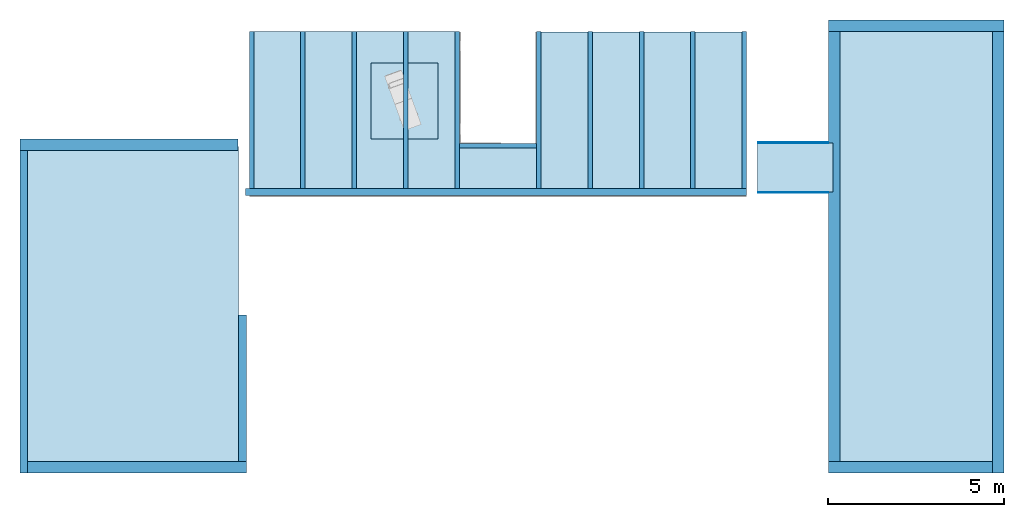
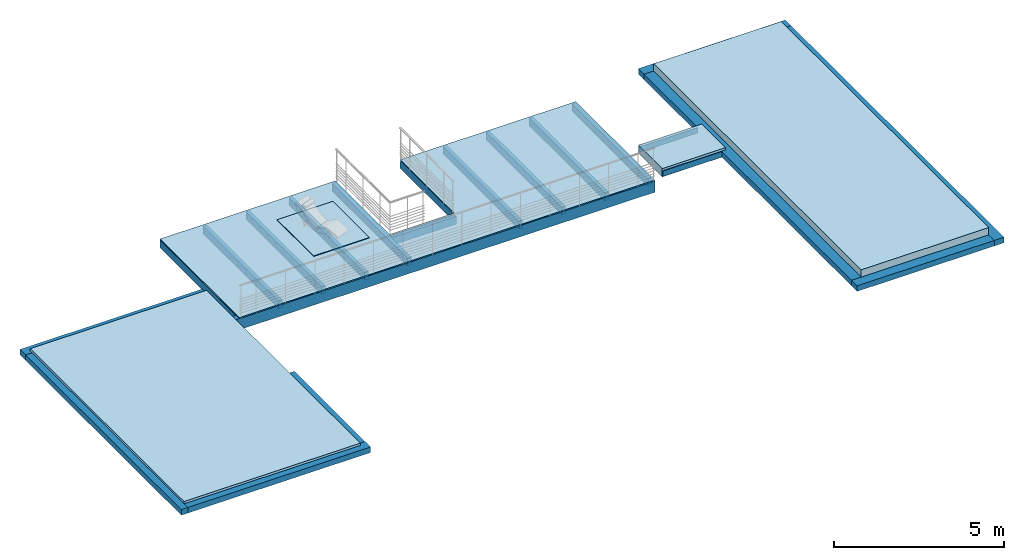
# One storey, part 1 of 2: 12 beams, 10 walls, 5 slabs.
"""IFC2X3 building model written with IfcOpenShell, lengths in metres."""

from ifc_helpers import new_model, entity, si_unit, converted_unit, derived_unit, direction, frame, frame_2d, origin, place, context, subcontext, project, spatial, polyline, rectangle, outline, extrude, material, layer, layer_set, layer_usage, type_object, element, save


model = new_model("IFC2X3")

# Units and contexts
model_context = context("Model", 3, precision=1e-05, world=origin(), true_north=direction((6.12303176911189e-17, 1.0)))
body_context = subcontext(model_context, "Body", "Model", "MODEL_VIEW")
ifc_project = project(units=[si_unit("LENGTHUNIT", "METRE"), si_unit("AREAUNIT", "SQUARE_METRE"), si_unit("VOLUMEUNIT", "CUBIC_METRE"), converted_unit("PLANEANGLEUNIT", "DEGREE", entity("IfcRatioMeasure", 0.0174532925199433), si_unit("PLANEANGLEUNIT", "RADIAN"), dimensions=[0, 0, 0, 0, 0, 0, 0]), si_unit("MASSUNIT", "GRAM", prefix="KILO"), derived_unit("MASSDENSITYUNIT", [(si_unit("MASSUNIT", "GRAM", prefix="KILO"), 1), (si_unit("LENGTHUNIT", "METRE"), -3)]), si_unit("TIMEUNIT", "SECOND"), si_unit("FREQUENCYUNIT", "HERTZ"), si_unit("THERMODYNAMICTEMPERATUREUNIT", "DEGREE_CELSIUS"), derived_unit("THERMALTRANSMITTANCEUNIT", [(si_unit("MASSUNIT", "GRAM", prefix="KILO"), 1), (si_unit("THERMODYNAMICTEMPERATUREUNIT", "KELVIN"), -1), (si_unit("TIMEUNIT", "SECOND"), -3)]), derived_unit("VOLUMETRICFLOWRATEUNIT", [(si_unit("LENGTHUNIT", "METRE"), 3), (si_unit("TIMEUNIT", "SECOND"), -1)]), si_unit("ELECTRICCURRENTUNIT", "AMPERE"), si_unit("ELECTRICVOLTAGEUNIT", "VOLT"), si_unit("POWERUNIT", "WATT"), si_unit("FORCEUNIT", "NEWTON", prefix="KILO"), si_unit("ILLUMINANCEUNIT", "LUX"), si_unit("LUMINOUSFLUXUNIT", "LUMEN"), si_unit("LUMINOUSINTENSITYUNIT", "CANDELA"), derived_unit("USERDEFINED", [(si_unit("MASSUNIT", "GRAM", prefix="KILO"), -1), (si_unit("LENGTHUNIT", "METRE"), -2), (si_unit("TIMEUNIT", "SECOND"), 3), (si_unit("LUMINOUSFLUXUNIT", "LUMEN"), 1)]), derived_unit("LINEARVELOCITYUNIT", [(si_unit("LENGTHUNIT", "METRE"), 1), (si_unit("TIMEUNIT", "SECOND"), -1)]), si_unit("PRESSUREUNIT", "PASCAL"), derived_unit("USERDEFINED", [(si_unit("LENGTHUNIT", "METRE"), -2), (si_unit("MASSUNIT", "GRAM", prefix="KILO"), 1), (si_unit("TIMEUNIT", "SECOND"), -2)])], contexts=[model_context])

# Site, building, storey
site_placement = place(None, origin())
site = spatial("IfcSite", under=ifc_project, at=site_placement, Name="Surface", CompositionType="ELEMENT")
building_placement = place(site_placement, origin())
building = spatial("IfcBuilding", under=site, at=building_placement, CompositionType="ELEMENT")
storey_placement = place(building_placement, frame((0.0, 0.0, 3.0)))
storey = spatial("IfcBuildingStorey", under=building, at=storey_placement, Name="1er ETAGE", CompositionType="ELEMENT", Elevation=2.99999999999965)

# Beams
ifc_material_1 = material(Name="Bois - Bois de construction de dimensions courantes")
beam_type_1 = type_object("IfcBeamType", Name="Poutre - Lamellé-collé - Pin du sud:127X279", PredefinedType="BEAM")
beam_1_placement = place(storey_placement, frame((-4.61435450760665, 7.54680149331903, 0.0), z_axis=(0.0, 0.0, 1.0), x_axis=(0.0, -1.0, 0.0)))
element("IfcBeam", 1, at=beam_1_placement, inside=storey, type_object=beam_type_1, material=ifc_material_1, Name="Poutre - Lamellé-collé - Pin du sud:127X279", ObjectType="Poutre - Lamellé-collé - Pin du sud:127X279", context=body_context, shape_type="SweptSolid", body=[
    extrude(rectangle(XDim=0.279, YDim=0.127000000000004, at=frame_2d((2.77555756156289e-16, 0.0), x_axis=(1.0, 0.0))), frame((0.000395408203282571, 0.0, -0.139500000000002), z_axis=(1.0, 0.0, 0.0), x_axis=(0.0, 0.0, -1.0)), (0.0, 0.0, 1.0), 4.469),
])
beam_2_placement = place(storey_placement, frame((1.23401111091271, 7.54680149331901, 0.0), z_axis=(0.0, 0.0, 1.0), x_axis=(0.0, -1.0, 0.0)))
element("IfcBeam", 2, at=beam_2_placement, inside=storey, type_object=beam_type_1, material=ifc_material_1, Name="Poutre - Lamellé-collé - Pin du sud:127X279", ObjectType="Poutre - Lamellé-collé - Pin du sud:127X279", context=body_context, shape_type="SweptSolid", body=[
    extrude(rectangle(XDim=0.279, YDim=0.127000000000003, at=frame_2d((2.77555756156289e-16, 1.31838984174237e-16), x_axis=(1.0, 0.0))), frame((0.000395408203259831, 0.0, -0.139500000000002), z_axis=(1.0, 0.0, 0.0), x_axis=(0.0, 0.0, -1.0)), (0.0, 0.0, 1.0), 4.469),
])
beam_3_placement = place(storey_placement, frame((-3.15226310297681, 7.54680149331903, 0.0), z_axis=(0.0, 0.0, 1.0), x_axis=(0.0, -1.0, 0.0)))
element("IfcBeam", 3, at=beam_3_placement, inside=storey, type_object=beam_type_1, material=ifc_material_1, Name="Poutre - Lamellé-collé - Pin du sud:127X279", ObjectType="Poutre - Lamellé-collé - Pin du sud:127X279", context=body_context, shape_type="SweptSolid", body=[
    extrude(rectangle(XDim=0.279, YDim=0.127000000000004, at=frame_2d((2.77555756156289e-16, 0.0), x_axis=(1.0, 0.0))), frame((0.000395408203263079, 0.0, -0.139500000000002), z_axis=(1.0, 0.0, 0.0), x_axis=(0.0, 0.0, -1.0)), (0.0, 0.0, 1.0), 4.469),
])
beam_4_placement = place(storey_placement, frame((-1.69017169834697, 7.54680149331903, 0.0), z_axis=(0.0, 0.0, 1.0), x_axis=(0.0, -1.0, 0.0)))
element("IfcBeam", 4, at=beam_4_placement, inside=storey, type_object=beam_type_1, material=ifc_material_1, Name="Poutre - Lamellé-collé - Pin du sud:127X279", ObjectType="Poutre - Lamellé-collé - Pin du sud:127X279", context=body_context, shape_type="SweptSolid", body=[
    extrude(rectangle(XDim=0.279, YDim=0.127000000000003, at=frame_2d((2.77555756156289e-16, 0.0), x_axis=(1.0, 0.0))), frame((0.000395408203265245, 0.0, -0.139500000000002), z_axis=(1.0, 0.0, 0.0), x_axis=(0.0, 0.0, -1.0)), (0.0, 0.0, 1.0), 4.469),
])
beam_5_placement = place(storey_placement, frame((-0.228080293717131, 7.54680149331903, 0.0), z_axis=(0.0, 0.0, 1.0), x_axis=(0.0, -1.0, 0.0)))
element("IfcBeam", 5, at=beam_5_placement, inside=storey, type_object=beam_type_1, material=ifc_material_1, Name="Poutre - Lamellé-collé - Pin du sud:127X279", ObjectType="Poutre - Lamellé-collé - Pin du sud:127X279", context=body_context, shape_type="SweptSolid", body=[
    extrude(rectangle(XDim=0.279, YDim=0.127000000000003, at=frame_2d((2.77555756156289e-16, 0.0), x_axis=(1.0, 0.0))), frame((0.000395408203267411, 0.0, -0.139500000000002), z_axis=(1.0, 0.0, 0.0), x_axis=(0.0, 0.0, -1.0)), (0.0, 0.0, 1.0), 4.469),
])
beam_6_placement = place(storey_placement, frame((9.40797688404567, 7.54680149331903, 0.0), z_axis=(0.0, 0.0, 1.0), x_axis=(0.0, -1.0, 0.0)))
element("IfcBeam", 6, at=beam_6_placement, inside=storey, type_object=beam_type_1, material=ifc_material_1, Name="Poutre - Lamellé-collé - Pin du sud:127X279", ObjectType="Poutre - Lamellé-collé - Pin du sud:127X279", context=body_context, shape_type="SweptSolid", body=[
    extrude(rectangle(XDim=0.279, YDim=0.127000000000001, at=frame_2d((2.77555756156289e-16, 0.0), x_axis=(1.0, 0.0))), frame((0.000395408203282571, 0.0, -0.139500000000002), z_axis=(1.0, 0.0, 0.0), x_axis=(0.0, 0.0, -1.0)), (0.0, 0.0, 1.0), 4.469),
])
beam_7_placement = place(storey_placement, frame((3.55961126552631, 7.54680149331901, 0.0), z_axis=(0.0, 0.0, 1.0), x_axis=(0.0, -1.0, 0.0)))
element("IfcBeam", 7, at=beam_7_placement, inside=storey, type_object=beam_type_1, material=ifc_material_1, Name="Poutre - Lamellé-collé - Pin du sud:127X279", ObjectType="Poutre - Lamellé-collé - Pin du sud:127X279", context=body_context, shape_type="SweptSolid", body=[
    extrude(rectangle(XDim=0.279, YDim=0.127000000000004, at=frame_2d((2.77555756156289e-16, 0.0), x_axis=(1.0, 0.0))), frame((0.000395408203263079, 0.0, -0.139500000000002), z_axis=(1.0, 0.0, 0.0), x_axis=(0.0, 0.0, -1.0)), (0.0, 0.0, 1.0), 4.469),
])
beam_8_placement = place(storey_placement, frame((7.94588547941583, 7.54680149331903, 0.0), z_axis=(0.0, 0.0, 1.0), x_axis=(0.0, -1.0, 0.0)))
element("IfcBeam", 8, at=beam_8_placement, inside=storey, type_object=beam_type_1, material=ifc_material_1, Name="Poutre - Lamellé-collé - Pin du sud:127X279", ObjectType="Poutre - Lamellé-collé - Pin du sud:127X279", context=body_context, shape_type="SweptSolid", body=[
    extrude(rectangle(XDim=0.279, YDim=0.127000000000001, at=frame_2d((2.77555756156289e-16, 0.0), x_axis=(1.0, 0.0))), frame((0.000395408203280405, 0.0, -0.139500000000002), z_axis=(1.0, 0.0, 0.0), x_axis=(0.0, 0.0, -1.0)), (0.0, 0.0, 1.0), 4.469),
])
beam_9_placement = place(storey_placement, frame((6.48379407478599, 7.54680149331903, 0.0), z_axis=(0.0, 0.0, 1.0), x_axis=(0.0, -1.0, 0.0)))
element("IfcBeam", 9, at=beam_9_placement, inside=storey, type_object=beam_type_1, material=ifc_material_1, Name="Poutre - Lamellé-collé - Pin du sud:127X279", ObjectType="Poutre - Lamellé-collé - Pin du sud:127X279", context=body_context, shape_type="SweptSolid", body=[
    extrude(rectangle(XDim=0.279, YDim=0.127000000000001, at=frame_2d((2.77555756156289e-16, -1.08246744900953e-15), x_axis=(1.0, 0.0))), frame((0.00039540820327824, 0.0, -0.139500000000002), z_axis=(1.0, 0.0, 0.0), x_axis=(0.0, 0.0, -1.0)), (0.0, 0.0, 1.0), 4.469),
])
beam_10_placement = place(storey_placement, frame((5.02170267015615, 7.54680149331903, 0.0), z_axis=(0.0, 0.0, 1.0), x_axis=(0.0, -1.0, 0.0)))
element("IfcBeam", 10, at=beam_10_placement, inside=storey, type_object=beam_type_1, material=ifc_material_1, Name="Poutre - Lamellé-collé - Pin du sud:127X279", ObjectType="Poutre - Lamellé-collé - Pin du sud:127X279", context=body_context, shape_type="SweptSolid", body=[
    extrude(rectangle(XDim=0.279, YDim=0.127000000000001, at=frame_2d((2.77555756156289e-16, -1.08246744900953e-15), x_axis=(1.0, 0.0))), frame((0.000395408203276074, 0.0, -0.139500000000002), z_axis=(1.0, 0.0, 0.0), x_axis=(0.0, 0.0, -1.0)), (0.0, 0.0, 1.0), 4.469),
])
beam_11_placement = place(storey_placement, frame((1.2340111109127, 4.29851067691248, 0.0)))
element("IfcBeam", 11, at=beam_11_placement, inside=storey, type_object=beam_type_1, material=ifc_material_1, Name="Poutre - Lamellé-collé - Pin du sud:127X279", ObjectType="Poutre - Lamellé-collé - Pin du sud:127X279", context=body_context, shape_type="SweptSolid", body=[
    extrude(rectangle(XDim=0.279, YDim=0.127000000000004, at=frame_2d((2.77555756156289e-16, 7.04297731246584e-15), x_axis=(1.0, 0.0))), frame((0.0638000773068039, 0.0, -0.139500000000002), z_axis=(1.0, 0.0, 0.0), x_axis=(0.0, 0.0, -1.0)), (0.0, 0.0, 1.0), 2.198),
])
ifc_material_2 = material(Name="Béton - Béton coulé sur place")
beam_type_2 = type_object("IfcBeamType", Name="Poutre rectangulaire - Béton:200 x 400 mm", PredefinedType="BEAM")
beam_12_placement = place(storey_placement, frame((-4.77202311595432, 2.97701067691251, 0.0)))
element("IfcBeam", 12, at=beam_12_placement, inside=storey, type_object=beam_type_2, material=ifc_material_2, Name="Poutre rectangulaire - Béton:200 x 400 mm", ObjectType="Poutre rectangulaire - Béton:200 x 400 mm", context=body_context, shape_type="SweptSolid", body=[
    extrude(rectangle(XDim=0.4, YDim=0.199999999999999, at=frame_2d((0.0, 4.60187443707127e-14), x_axis=(1.0, 0.0))), frame((-0.0124328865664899, 0.0, -0.200000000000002), z_axis=(1.0, 0.0, 0.0), x_axis=(0.0, 0.0, -1.0)), (0.0, 0.0, 1.0), 14.2519671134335),
])

# Slabs
ifc_material_3 = material(Name="Bois - Chêne")
ifc_layer_1 = layer(ifc_material_3, 0.04)
ifc_layer_set_1 = layer_set([ifc_layer_1], Name="Sol:Plancher bois")
ifc_layer_usage_1 = layer_usage(ifc_layer_set_1, "AXIS3", "POSITIVE", 0.0)
slab_1_placement = place(storey_placement, origin())
element("IfcSlab", 13, at=slab_1_placement, inside=storey, material=ifc_layer_usage_1, Name="Sol:Plancher bois", ObjectType="Sol:Plancher bois", PredefinedType="FLOOR", context=body_context, shape_type="SweptSolid", body=[
    extrude(outline(polyline([(-2.70529411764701, -7.0696500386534), (1.96470588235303, -7.0696500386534), (1.96470588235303, -1.0996500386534), (-1.214117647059, -1.0996500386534), (-1.21411764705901, 1.0989501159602), (1.954705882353, 1.09895011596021), (1.95470588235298, 7.0703499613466), (-2.70529411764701, 7.0703499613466), (-2.70529411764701, -7.0696500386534)])), frame((2.39716114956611, 5.58230479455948, 0.0399999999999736), z_axis=(0.0, 0.0, -1.0), x_axis=(0.0, 1.0, 0.0)), (0.0, 0.0, 1.0), 0.0400000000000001),
])
ifc_material_4 = material(Name="Protection lourde")
ifc_layer_2 = layer(ifc_material_4, 0.04)
ifc_material_5 = material(Name="Toiture, membrane EPDM")
ifc_layer_3 = layer(ifc_material_5, 0.002)
ifc_material_6 = material(Name="Maçonnerie - Isolant")
ifc_layer_4 = layer(ifc_material_6, 0.06)
ifc_material_7 = material(Name="Maçonnerie - Béton")
ifc_layer_5 = layer(ifc_material_7, 0.2)
ifc_layer_set_2 = layer_set([ifc_layer_2, ifc_layer_3, ifc_layer_4, ifc_layer_5], Name="Sol:TT garage ba 20+  isol 6 + EPDM + pl 4")
ifc_layer_usage_2 = layer_usage(ifc_layer_set_2, "AXIS3", "POSITIVE", 0.0)
slab_2_placement = place(storey_placement, origin())
element("IfcSlab", 14, at=slab_2_placement, inside=storey, material=ifc_layer_usage_2, Name="Sol:TT garage ba 20+  isol 6 + EPDM + pl 4", ObjectType="Sol:TT garage ba 20+  isol 6 + EPDM + pl 4", PredefinedType="FLOOR", context=body_context, shape_type="SweptSolid", body=[
    extrude(rectangle(XDim=9.07, YDim=5.99999999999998, at=frame_2d((0.0, -1.11022302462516e-15), x_axis=(1.0, 0.0))), frame((-7.9824888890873, -0.257989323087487, 0.282000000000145), z_axis=(0.0, 0.0, -1.0), x_axis=(0.0, 1.0, 0.0)), (0.0, 0.0, 1.0), 0.302),
])
ifc_material_8 = material(Name="Herbe")
ifc_layer_6 = layer(ifc_material_8, 0.01)
ifc_material_9 = material(Name="Terre")
ifc_layer_7 = layer(ifc_material_9, 0.14)
ifc_material_10 = material(Name="Géotextile")
ifc_layer_8 = layer(ifc_material_10, 0.001)
ifc_material_11 = material(Name="Couche drainante")
ifc_layer_9 = layer(ifc_material_11, 0.05)
ifc_layer_10 = layer(ifc_material_5, 0.002)
ifc_layer_11 = layer(ifc_material_6, 0.06)
ifc_layer_12 = layer(ifc_material_7, 0.2)
ifc_layer_set_3 = layer_set([ifc_layer_6, ifc_layer_7, ifc_layer_8, ifc_layer_9, ifc_layer_10, ifc_layer_11, ifc_layer_12], Name="Sol:TT nuit  ba 20+  isol 6 +dr 5 + géot + terre 15")
ifc_layer_usage_3 = layer_usage(ifc_layer_set_3, "AXIS3", "POSITIVE", 0.0)
slab_3_placement = place(storey_placement, origin())
element("IfcSlab", 15, at=slab_3_placement, inside=storey, material=ifc_layer_usage_3, Name="Sol:TT nuit  ba 20+  isol 6 +dr 5 + géot + terre 15", ObjectType="Sol:TT nuit  ba 20+  isol 6 +dr 5 + géot + terre 15", PredefinedType="FLOOR", context=body_context, shape_type="SweptSolid", body=[
    extrude(rectangle(XDim=12.2299999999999, YDim=4.33999999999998, at=frame_2d((0.0, -1.11022302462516e-15), x_axis=(1.0, 0.0))), frame((14.2975111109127, 1.43201067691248, 0.462999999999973), z_axis=(0.0, 0.0, -1.0), x_axis=(0.0, 1.0, 0.0)), (0.0, 0.0, 1.0), 0.463),
])
ifc_layer_usage_4 = layer_usage(ifc_layer_set_2, "AXIS3", "POSITIVE", 0.0)
slab_4_placement = place(storey_placement, origin())
element("IfcSlab", 16, at=slab_4_placement, inside=storey, material=ifc_layer_usage_4, Name="Sol:TT garage ba 20+  isol 6 + EPDM + pl 4", ObjectType="Sol:TT garage ba 20+  isol 6 + EPDM + pl 4", PredefinedType="FLOOR", context=body_context, shape_type="SweptSolid", body=[
    extrude(rectangle(XDim=1.4, YDim=2.15, at=frame_2d((-2.77555756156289e-16, -1.11022302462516e-15), x_axis=(1.0, 0.0))), frame((10.8525111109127, 3.67701067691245, 0.282), z_axis=(0.0, 0.0, -1.0), x_axis=(0.0, 1.0, 0.0)), (0.0, 0.0, 1.0), 0.302),
])
ifc_material_12 = material(Name="Tapis beige")
ifc_layer_13 = layer(ifc_material_12, 0.02)
ifc_layer_set_4 = layer_set([ifc_layer_13], Name="Sol:Tapis")
ifc_layer_usage_5 = layer_usage(ifc_layer_set_4, "AXIS3", "POSITIVE", 0.0)
slab_5_placement = place(storey_placement, origin())
element("IfcSlab", 17, at=slab_5_placement, inside=storey, material=ifc_layer_usage_5, Name="Sol:Tapis", ObjectType="Sol:Tapis", PredefinedType="FLOOR", context=body_context, shape_type="SweptSolid", body=[
    extrude(rectangle(XDim=2.15000000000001, YDim=1.9, at=frame_2d((2.22044604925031e-16, 0.0), x_axis=(1.0, 0.0))), frame((-0.259076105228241, 5.57201067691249, 0.0642297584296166), z_axis=(0.0, 0.0, -1.0), x_axis=(0.0, 1.0, 0.0)), (0.0, 0.0, 1.0), 0.0199999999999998),
])

# Walls
ifc_material_13 = material(Name="Maçonnerie - Enduit")
ifc_layer_14 = layer(ifc_material_13, 0.02)
ifc_material_14 = material(Name="Blocs béton manufacturés")
ifc_layer_15 = layer(ifc_material_14, 0.05)
ifc_layer_16 = layer(ifc_material_2, 0.15)
ifc_material_15 = material(Name="Mur par défaut")
ifc_layer_17 = layer(ifc_material_15, 0.01)
ifc_layer_18 = layer(ifc_material_6, 0.09)
ifc_material_16 = material(Name="Finition Peinture - Blanc satiné")
ifc_layer_19 = layer(ifc_material_16, 0.01)
ifc_layer_set_5 = layer_set([ifc_layer_14, ifc_layer_15, ifc_layer_16, ifc_layer_17, ifc_layer_18, ifc_layer_19], Name="Mur de base:Ext. Crépis 2 + Plan 5 + BA 15 + isol 11")
ifc_layer_usage_6 = layer_usage(ifc_layer_set_5, "AXIS2", "POSITIVE", -0.165)
wall_type_1 = type_object("IfcWallType", Name="Mur de base:Ext. Crépis 2 + Plan 5 + BA 15 + isol 11", PredefinedType="STANDARD", material=ifc_layer_set_5)
wall_1_placement = place(storey_placement, frame((-5.0024888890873, 4.3320106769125, 0.0), z_axis=(0.0, 0.0, 1.0), x_axis=(-1.0, 0.0, 0.0)))
element("IfcWallStandardCase", 18, at=wall_1_placement, inside=storey, type_object=wall_type_1, material=ifc_layer_usage_6, Name="Mur de base:Ext. Crépis 2 + Plan 5 + BA 15 + isol 11", ObjectType="Mur de base:Ext. Crépis 2 + Plan 5 + BA 15 + isol 11", context=body_context, shape_type="SweptSolid", body=[
    extrude(rectangle(XDim=6.19999999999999, YDim=0.33, at=frame_2d((3.1, 0.0), x_axis=(-1.0, 0.0))), origin(), (0.0, 0.0, 1.0), 0.2),
])
ifc_layer_usage_7 = layer_usage(ifc_layer_set_5, "AXIS2", "POSITIVE", -0.165)
wall_2_placement = place(storey_placement, frame((-10.9824888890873, -4.84798932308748, 0.0)))
element("IfcWallStandardCase", 19, at=wall_2_placement, inside=storey, type_object=wall_type_1, material=ifc_layer_usage_7, Name="Mur de base:Ext. Crépis 2 + Plan 5 + BA 15 + isol 11", ObjectType="Mur de base:Ext. Crépis 2 + Plan 5 + BA 15 + isol 11", context=body_context, shape_type="SweptSolid", body=[
    extrude(rectangle(XDim=6.21999999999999, YDim=0.33, at=frame_2d((3.11, -3.60822483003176e-16), x_axis=(-1.0, 0.0))), origin(), (0.0, 0.0, 1.0), 0.2),
])
ifc_layer_20 = layer(ifc_material_13, 0.02)
ifc_layer_21 = layer(ifc_material_14, 0.2)
ifc_layer_set_6 = layer_set([ifc_layer_20, ifc_layer_21], Name="Mur de base:Ext. Crépis 2 +plan 5 + BA 15")
ifc_layer_usage_8 = layer_usage(ifc_layer_set_6, "AXIS2", "POSITIVE", -0.11)
wall_type_2 = type_object("IfcWallType", Name="Mur de base:Ext. Crépis 2 +plan 5 + BA 15", PredefinedType="STANDARD", material=ifc_layer_set_6)
wall_3_placement = place(storey_placement, frame((-11.0924888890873, 4.16701067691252, 0.0), z_axis=(0.0, 0.0, 1.0), x_axis=(0.0, -1.0, 0.0)))
element("IfcWallStandardCase", 20, at=wall_3_placement, inside=storey, type_object=wall_type_2, material=ifc_layer_usage_8, Name="Mur de base:Ext. Crépis 2 +plan 5 + BA 15", ObjectType="Mur de base:Ext. Crépis 2 +plan 5 + BA 15", context=body_context, shape_type="SweptSolid", body=[
    extrude(rectangle(XDim=9.18000000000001, YDim=0.220000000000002, at=frame_2d((4.59, -2.63677968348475e-16), x_axis=(-1.0, 0.0))), origin(), (0.0, 0.0, 1.0), 0.2),
])
ifc_layer_usage_9 = layer_usage(ifc_layer_set_6, "AXIS2", "POSITIVE", -0.11)
wall_4_placement = place(storey_placement, frame((-4.87248888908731, -4.68298932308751, 0.0), z_axis=(0.0, 0.0, 1.0), x_axis=(0.0, 1.0, 0.0)))
element("IfcWallStandardCase", 21, at=wall_4_placement, inside=storey, type_object=wall_type_2, material=ifc_layer_usage_9, Name="Mur de base:Ext. Crépis 2 +plan 5 + BA 15", ObjectType="Mur de base:Ext. Crépis 2 +plan 5 + BA 15", context=body_context, shape_type="SweptSolid", body=[
    extrude(rectangle(XDim=4.15999999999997, YDim=0.22, at=frame_2d((2.07999999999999, 6.93889390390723e-18), x_axis=(-1.0, 0.0))), origin(), (0.0, 0.0, 1.0), 0.2),
])
ifc_material_17 = material(Name="Bardage bois")
ifc_layer_22 = layer(ifc_material_17, 0.01)
ifc_layer_23 = layer(ifc_material_6, 0.12)
ifc_material_18 = material(Name="Béton, coulé sur place")
ifc_layer_24 = layer(ifc_material_18, 0.2)
ifc_layer_set_7 = layer_set([ifc_layer_22, ifc_layer_23, ifc_layer_24], Name="Mur de base:Ext. Bois 2 +Isolant 12 + BA 20")
ifc_layer_usage_10 = layer_usage(ifc_layer_set_7, "AXIS2", "NEGATIVE", 0.165)
wall_type_3 = type_object("IfcWallType", Name="Mur de base:Ext. Bois 2 +Isolant 12 + BA 20", PredefinedType="STANDARD", material=ifc_layer_set_7)
wall_5_placement = place(storey_placement, frame((11.7975111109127, 7.71201067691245, 0.0)))
element("IfcWallStandardCase", 22, at=wall_5_placement, inside=storey, type_object=wall_type_3, material=ifc_layer_usage_10, Name="Mur de base:Ext. Bois 2 +Isolant 12 + BA 20", ObjectType="Mur de base:Ext. Bois 2 +Isolant 12 + BA 20", context=body_context, shape_type="SweptSolid", body=[
    extrude(rectangle(XDim=5.0, YDim=0.330000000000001, at=frame_2d((2.5, 0.0), x_axis=(-1.0, 0.0))), origin(), (0.0, 0.0, 1.0), 0.2),
])
ifc_layer_usage_11 = layer_usage(ifc_layer_set_7, "AXIS2", "NEGATIVE", 0.165)
wall_6_placement = place(storey_placement, frame((16.6325111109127, 7.54701067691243, 0.0), z_axis=(0.0, 0.0, 1.0), x_axis=(0.0, -1.0, 0.0)))
element("IfcWallStandardCase", 23, at=wall_6_placement, inside=storey, type_object=wall_type_3, material=ifc_layer_usage_11, Name="Mur de base:Ext. Bois 2 +Isolant 12 + BA 20", ObjectType="Mur de base:Ext. Bois 2 +Isolant 12 + BA 20", context=body_context, shape_type="SweptSolid", body=[
    extrude(rectangle(XDim=12.5599999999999, YDim=0.329999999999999, at=frame_2d((6.27999999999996, -2.77555756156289e-16), x_axis=(-1.0, 0.0))), origin(), (0.0, 0.0, 1.0), 0.2),
])
ifc_layer_usage_12 = layer_usage(ifc_layer_set_7, "AXIS2", "NEGATIVE", 0.165)
wall_7_placement = place(storey_placement, frame((16.4675111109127, -4.84798932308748, 0.0), z_axis=(0.0, 0.0, 1.0), x_axis=(-1.0, 0.0, 0.0)))
element("IfcWallStandardCase", 24, at=wall_7_placement, inside=storey, type_object=wall_type_3, material=ifc_layer_usage_12, Name="Mur de base:Ext. Bois 2 +Isolant 12 + BA 20", ObjectType="Mur de base:Ext. Bois 2 +Isolant 12 + BA 20", context=body_context, shape_type="SweptSolid", body=[
    extrude(rectangle(XDim=4.67, YDim=0.33, at=frame_2d((2.335, 0.0), x_axis=(-1.0, 0.0))), origin(), (0.0, 0.0, 1.0), 0.2),
])
ifc_layer_usage_13 = layer_usage(ifc_layer_set_7, "AXIS2", "NEGATIVE", 0.165)
wall_8_placement = place(storey_placement, frame((11.9625111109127, -4.68298932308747, 0.0), z_axis=(0.0, 0.0, 1.0), x_axis=(0.0, 1.0, 0.0)))
element("IfcWallStandardCase", 25, at=wall_8_placement, inside=storey, type_object=wall_type_3, material=ifc_layer_usage_13, Name="Mur de base:Ext. Bois 2 +Isolant 12 + BA 20", ObjectType="Mur de base:Ext. Bois 2 +Isolant 12 + BA 20", context=body_context, shape_type="SweptSolid", body=[
    extrude(rectangle(XDim=12.2299999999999, YDim=0.329999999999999, at=frame_2d((6.11499999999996, -5.55111512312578e-16), x_axis=(-1.0, 0.0))), origin(), (0.0, 0.0, 1.0), 0.2),
])
ifc_layer_25 = layer(ifc_material_13, 0.02)
ifc_layer_set_8 = layer_set([ifc_layer_25], Name="Mur de base:Crépis 2 cm")
ifc_layer_usage_14 = layer_usage(ifc_layer_set_8, "AXIS2", "NEGATIVE", 0.01)
wall_type_4 = type_object("IfcWallType", Name="Mur de base:Crépis 2 cm", PredefinedType="STANDARD", material=ifc_layer_set_8)
wall_9_placement = place(storey_placement, frame((9.7975111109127, 2.96701067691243, 0.0)))
element("IfcWallStandardCase", 26, at=wall_9_placement, inside=storey, type_object=wall_type_4, material=ifc_layer_usage_14, Name="Mur de base:Crépis 2 cm", ObjectType="Mur de base:Crépis 2 cm", context=body_context, shape_type="SweptSolid", body=[
    extrude(rectangle(XDim=2.0, YDim=0.0199999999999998, at=frame_2d((1.0, 0.0), x_axis=(-1.0, 0.0))), origin(), (0.0, 0.0, 1.0), 0.199999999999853),
])
ifc_layer_usage_15 = layer_usage(ifc_layer_set_8, "AXIS2", "POSITIVE", -0.01)
wall_10_placement = place(storey_placement, frame((9.7975111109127, 4.38701067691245, 0.0)))
element("IfcWallStandardCase", 27, at=wall_10_placement, inside=storey, type_object=wall_type_4, material=ifc_layer_usage_15, Name="Mur de base:Crépis 2 cm", ObjectType="Mur de base:Crépis 2 cm", context=body_context, shape_type="SweptSolid", body=[
    extrude(rectangle(XDim=2.0, YDim=0.0199999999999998, at=frame_2d((1.0, 0.0), x_axis=(-1.0, 0.0))), origin(), (0.0, 0.0, 1.0), 0.199999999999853),
])

save(model, "model.ifc")
